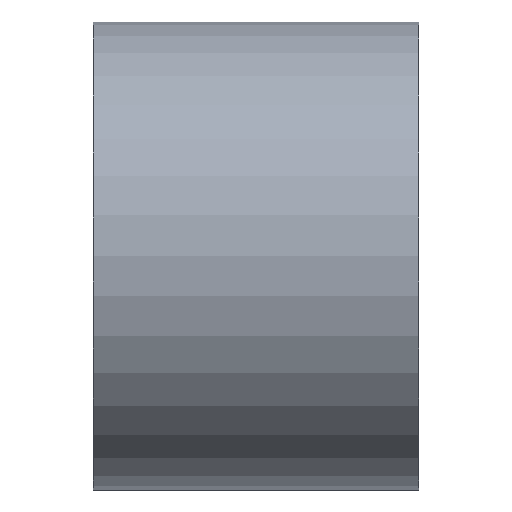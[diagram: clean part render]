
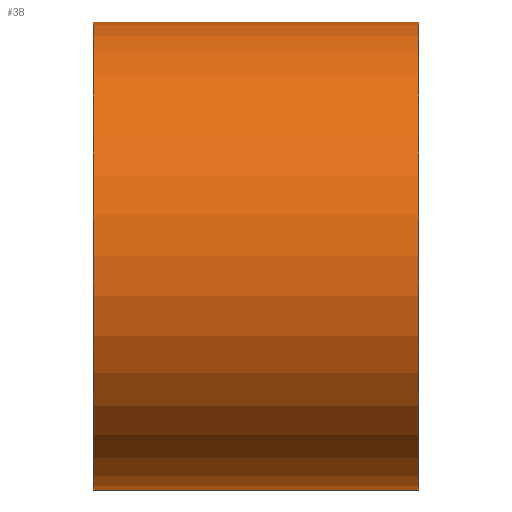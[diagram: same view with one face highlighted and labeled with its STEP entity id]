
A CAD part, top view. The second image highlights one B-rep face of the part: STEP entity #38.
In plain terms, the highlighted cylindrical face has radius 18 mm (diameter 36 mm), a partial arc.
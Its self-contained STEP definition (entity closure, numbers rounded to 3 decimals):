
#38=ADVANCED_FACE('',(#51),#144,.T.);
#51=FACE_OUTER_BOUND('',#64,.F.);
#64=EDGE_LOOP('',(#87,#88,#89,#90));
#87=ORIENTED_EDGE('',*,*,#190,.T.);
#88=ORIENTED_EDGE('',*,*,#195,.F.);
#89=ORIENTED_EDGE('',*,*,#191,.T.);
#90=ORIENTED_EDGE('',*,*,#194,.T.);
#144=CYLINDRICAL_SURFACE('',#274,18.);
#163=LINE('',#401,#173);
#164=LINE('',#402,#174);
#173=VECTOR('',#313,25.);
#174=VECTOR('',#314,25.);
#190=EDGE_CURVE('',#240,#239,#220,.T.);
#191=EDGE_CURVE('',#238,#237,#221,.T.);
#194=EDGE_CURVE('',#237,#240,#163,.T.);
#195=EDGE_CURVE('',#238,#239,#164,.T.);
#220=CIRCLE('',#262,18.);
#221=CIRCLE('',#263,18.);
#237=VERTEX_POINT('',#374);
#238=VERTEX_POINT('',#375);
#239=VERTEX_POINT('',#376);
#240=VERTEX_POINT('',#377);
#262=AXIS2_PLACEMENT_3D('',#397,#307,#308);
#263=AXIS2_PLACEMENT_3D('',#398,#309,#310);
#274=AXIS2_PLACEMENT_3D('',#419,#341,#342);
#307=DIRECTION('',(-1.,0.,0.));
#308=DIRECTION('',(0.,-1.,0.));
#309=DIRECTION('',(1.,0.,0.));
#310=DIRECTION('',(0.,1.,0.));
#313=DIRECTION('',(-1.,0.,0.));
#314=DIRECTION('',(-1.,0.,0.));
#341=DIRECTION('',(-1.,0.,0.));
#342=DIRECTION('',(0.,-1.,0.));
#374=CARTESIAN_POINT('',(30.,-18.,0.));
#375=CARTESIAN_POINT('',(30.,18.,0.));
#376=CARTESIAN_POINT('',(5.,18.,0.));
#377=CARTESIAN_POINT('',(5.,-18.,0.));
#397=CARTESIAN_POINT('',(5.,0.,0.));
#398=CARTESIAN_POINT('',(30.,0.,0.));
#401=CARTESIAN_POINT('',(30.,-18.,0.));
#402=CARTESIAN_POINT('',(30.,18.,0.));
#419=CARTESIAN_POINT('',(30.,0.,0.));
